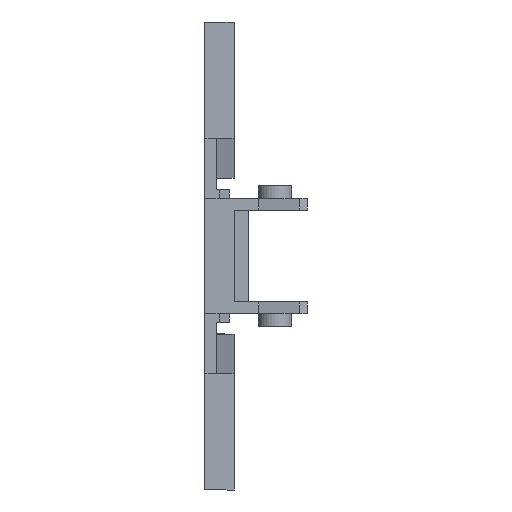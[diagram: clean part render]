
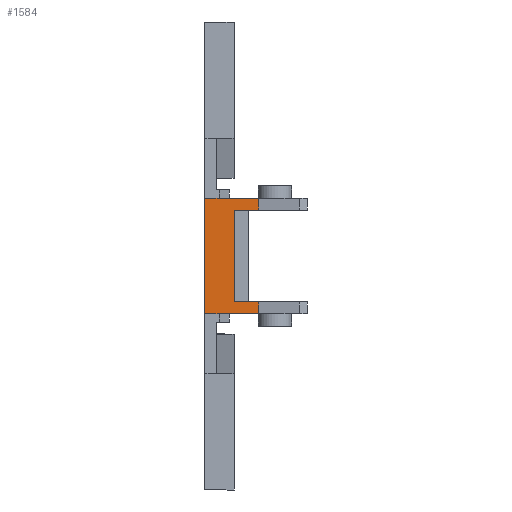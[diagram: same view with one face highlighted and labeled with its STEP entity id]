
A CAD part, front view. The second image highlights one B-rep face of the part: STEP entity #1584.
In plain terms, the highlighted planar face has unit normal (0, -1, 0).
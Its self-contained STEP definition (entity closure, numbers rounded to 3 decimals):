
#5 = CARTESIAN_POINT ( 'NONE',  ( 5.523, -25.55, 4.7 ) ) ;
#108 = VERTEX_POINT ( 'NONE', #2426 ) ;
#133 = DIRECTION ( 'NONE',  ( 1., 0., 0. ) ) ;
#199 = EDGE_CURVE ( 'NONE', #3132, #108, #2903, .T. ) ;
#217 = VECTOR ( 'NONE', #2064, 1000. ) ;
#313 = VECTOR ( 'NONE', #133, 1000. ) ;
#350 = VECTOR ( 'NONE', #2955, 1000. ) ;
#394 = CARTESIAN_POINT ( 'NONE',  ( 1.5, -25.55, -5.9 ) ) ;
#400 = CARTESIAN_POINT ( 'NONE',  ( 5.523, -25.55, 67.733 ) ) ;
#432 = VERTEX_POINT ( 'NONE', #1712 ) ;
#463 = ORIENTED_EDGE ( 'NONE', *, *, #3145, .F. ) ;
#511 = FACE_OUTER_BOUND ( 'NONE', #3278, .T. ) ;
#747 = CARTESIAN_POINT ( 'NONE',  ( 10.5, -25.55, 4.7 ) ) ;
#767 = LINE ( 'NONE', #2298, #217 ) ;
#853 = LINE ( 'NONE', #400, #2004 ) ;
#964 = VECTOR ( 'NONE', #2679, 1000. ) ;
#1028 = ORIENTED_EDGE ( 'NONE', *, *, #2353, .F. ) ;
#1052 = ORIENTED_EDGE ( 'NONE', *, *, #199, .T. ) ;
#1053 = LINE ( 'NONE', #3087, #2222 ) ;
#1324 = ORIENTED_EDGE ( 'NONE', *, *, #3572, .T. ) ;
#1472 = DIRECTION ( 'NONE',  ( 0., -1., 0. ) ) ;
#1575 = VECTOR ( 'NONE', #1656, 1000. ) ;
#1584 = ADVANCED_FACE ( 'NONE', ( #511 ), #2884, .T. ) ;
#1596 = VERTEX_POINT ( 'NONE', #2872 ) ;
#1603 = EDGE_CURVE ( 'NONE', #108, #432, #1739, .T. ) ;
#1647 = EDGE_CURVE ( 'NONE', #3575, #432, #767, .T. ) ;
#1656 = DIRECTION ( 'NONE',  ( 0., 0., -1. ) ) ;
#1712 = CARTESIAN_POINT ( 'NONE',  ( 5.523, -25.55, -5.9 ) ) ;
#1739 = LINE ( 'NONE', #394, #313 ) ;
#1753 = ORIENTED_EDGE ( 'NONE', *, *, #3256, .T. ) ;
#1812 = CARTESIAN_POINT ( 'NONE',  ( 5.523, -25.55, 5.9 ) ) ;
#1845 = VERTEX_POINT ( 'NONE', #5 ) ;
#1853 = CARTESIAN_POINT ( 'NONE',  ( 5.523, -25.55, -4.7 ) ) ;
#1894 = VERTEX_POINT ( 'NONE', #3002 ) ;
#1949 = DIRECTION ( 'NONE',  ( 1., 0., 0. ) ) ;
#1988 = DIRECTION ( 'NONE',  ( -1., 0., 0. ) ) ;
#2004 = VECTOR ( 'NONE', #3449, 1000. ) ;
#2055 = ORIENTED_EDGE ( 'NONE', *, *, #2268, .F. ) ;
#2064 = DIRECTION ( 'NONE',  ( 0., 0., -1. ) ) ;
#2222 = VECTOR ( 'NONE', #1949, 1000. ) ;
#2225 = CARTESIAN_POINT ( 'NONE',  ( 0., -25.55, 15.37 ) ) ;
#2259 = CARTESIAN_POINT ( 'NONE',  ( 0., -25.55, 5.9 ) ) ;
#2266 = LINE ( 'NONE', #3389, #2656 ) ;
#2268 = EDGE_CURVE ( 'NONE', #3386, #1845, #853, .T. ) ;
#2298 = CARTESIAN_POINT ( 'NONE',  ( 5.523, -25.55, 67.733 ) ) ;
#2353 = EDGE_CURVE ( 'NONE', #1596, #1894, #2752, .T. ) ;
#2426 = CARTESIAN_POINT ( 'NONE',  ( 0., -25.55, -5.9 ) ) ;
#2526 = LINE ( 'NONE', #747, #964 ) ;
#2569 = AXIS2_PLACEMENT_3D ( 'NONE', #3148, #1472, #3133 ) ;
#2650 = ORIENTED_EDGE ( 'NONE', *, *, #1603, .T. ) ;
#2656 = VECTOR ( 'NONE', #1988, 1000. ) ;
#2679 = DIRECTION ( 'NONE',  ( 1., 0., 0. ) ) ;
#2752 = LINE ( 'NONE', #2981, #350 ) ;
#2768 = ORIENTED_EDGE ( 'NONE', *, *, #1647, .F. ) ;
#2872 = CARTESIAN_POINT ( 'NONE',  ( 3., -25.55, 4.7 ) ) ;
#2884 = PLANE ( 'NONE',  #2569 ) ;
#2903 = LINE ( 'NONE', #2225, #1575 ) ;
#2955 = DIRECTION ( 'NONE',  ( 0., 0., -1. ) ) ;
#2981 = CARTESIAN_POINT ( 'NONE',  ( 3., -25.55, -5.9 ) ) ;
#3002 = CARTESIAN_POINT ( 'NONE',  ( 3., -25.55, -4.7 ) ) ;
#3087 = CARTESIAN_POINT ( 'NONE',  ( 10.5, -25.55, -4.7 ) ) ;
#3132 = VERTEX_POINT ( 'NONE', #2259 ) ;
#3133 = DIRECTION ( 'NONE',  ( -1., 0., 0. ) ) ;
#3145 = EDGE_CURVE ( 'NONE', #1894, #3575, #1053, .T. ) ;
#3148 = CARTESIAN_POINT ( 'NONE',  ( 10.5, -25.55, -5.9 ) ) ;
#3256 = EDGE_CURVE ( 'NONE', #3386, #3132, #2266, .T. ) ;
#3278 = EDGE_LOOP ( 'NONE', ( #1028, #1324, #2055, #1753, #1052, #2650, #2768, #463 ) ) ;
#3386 = VERTEX_POINT ( 'NONE', #1812 ) ;
#3389 = CARTESIAN_POINT ( 'NONE',  ( 10.5, -25.55, 5.9 ) ) ;
#3449 = DIRECTION ( 'NONE',  ( 0., 0., -1. ) ) ;
#3572 = EDGE_CURVE ( 'NONE', #1596, #1845, #2526, .T. ) ;
#3575 = VERTEX_POINT ( 'NONE', #1853 ) ;
